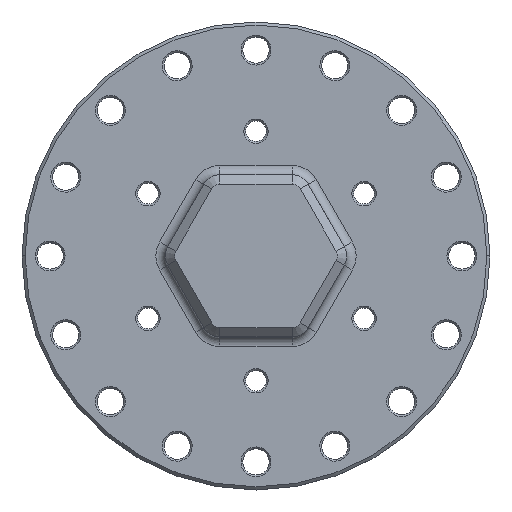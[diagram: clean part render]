
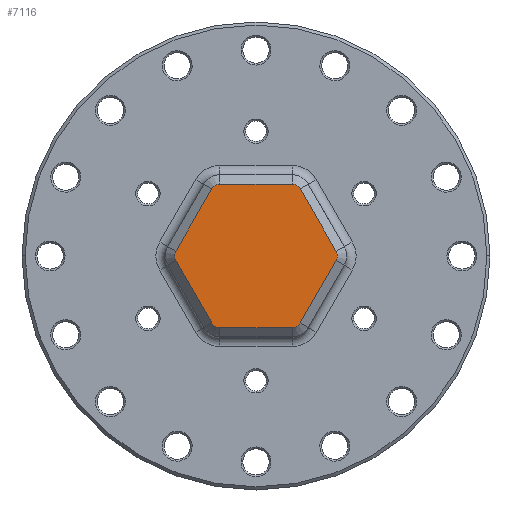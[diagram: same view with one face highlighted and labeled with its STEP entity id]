
A CAD part, top view. The second image highlights one B-rep face of the part: STEP entity #7116.
In plain terms, the highlighted planar face has unit normal (0, 0, 1).
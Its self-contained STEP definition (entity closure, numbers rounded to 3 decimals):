
#2974=CARTESIAN_POINT('',(-5.774,10.,19.));
#2975=DIRECTION('',(0.,0.,1.));
#2976=DIRECTION('',(0.,1.,0.));
#2977=AXIS2_PLACEMENT_3D('',#2974,#2975,#2976);
#2982=DIRECTION('',(-1.,0.,0.));
#2983=VECTOR('',#2982,11.547);
#2984=CARTESIAN_POINT('',(5.774,11.5,19.));
#2985=LINE('',#2984,#2983);
#2989=CARTESIAN_POINT('',(5.774,10.,19.));
#2990=DIRECTION('',(0.,0.,1.));
#2991=DIRECTION('',(0.866,0.5,0.));
#2992=AXIS2_PLACEMENT_3D('',#2989,#2990,#2991);
#2997=DIRECTION('',(-0.5,0.866,0.));
#2998=VECTOR('',#2997,11.547);
#2999=CARTESIAN_POINT('',(12.846,0.75,19.));
#3000=LINE('',#2999,#2998);
#3004=CARTESIAN_POINT('',(11.547,0.,19.));
#3005=DIRECTION('',(0.,0.,1.));
#3006=DIRECTION('',(0.866,-0.5,0.));
#3007=AXIS2_PLACEMENT_3D('',#3004,#3005,#3006);
#3012=DIRECTION('',(0.5,0.866,0.));
#3013=VECTOR('',#3012,11.547);
#3014=CARTESIAN_POINT('',(7.073,-10.75,19.));
#3015=LINE('',#3014,#3013);
#3019=CARTESIAN_POINT('',(5.774,-10.,19.));
#3020=DIRECTION('',(0.,0.,1.));
#3021=DIRECTION('',(0.,-1.,0.));
#3022=AXIS2_PLACEMENT_3D('',#3019,#3020,#3021);
#3027=DIRECTION('',(1.,0.,0.));
#3028=VECTOR('',#3027,11.547);
#3029=CARTESIAN_POINT('',(-5.774,-11.5,
19.));
#3030=LINE('',#3029,#3028);
#3034=CARTESIAN_POINT('',(-5.774,-10.,19.));
#3035=DIRECTION('',(0.,0.,1.));
#3036=DIRECTION('',(-0.866,-0.5,0.));
#3037=AXIS2_PLACEMENT_3D('',#3034,#3035,#3036);
#3042=DIRECTION('',(0.5,-0.866,0.));
#3043=VECTOR('',#3042,11.547);
#3044=CARTESIAN_POINT('',(-12.846,-0.75,
19.));
#3045=LINE('',#3044,#3043);
#3049=CARTESIAN_POINT('',(-11.547,0.,19.));
#3050=DIRECTION('',(0.,0.,1.));
#3051=DIRECTION('',(-0.866,0.5,0.));
#3052=AXIS2_PLACEMENT_3D('',#3049,#3050,#3051);
#3057=DIRECTION('',(-0.5,-0.866,0.));
#3058=VECTOR('',#3057,11.547);
#3059=CARTESIAN_POINT('',(-7.073,10.75,19.));
#3060=LINE('',#3059,#3058);
#4307=CARTESIAN_POINT('',(-5.774,11.5,19.));
#4308=CARTESIAN_POINT('',(-7.073,10.75,19.));
#4309=VERTEX_POINT('',#4307);
#4310=VERTEX_POINT('',#4308);
#4315=CARTESIAN_POINT('',(-12.846,0.75,
19.));
#4316=VERTEX_POINT('',#4315);
#4319=CARTESIAN_POINT('',(-12.846,-0.75,19.));
#4320=VERTEX_POINT('',#4319);
#4323=CARTESIAN_POINT('',(-7.073,-10.75,
19.));
#4324=VERTEX_POINT('',#4323);
#4327=CARTESIAN_POINT('',(-5.774,-11.5,19.));
#4328=VERTEX_POINT('',#4327);
#4331=CARTESIAN_POINT('',(5.774,-11.5,19.));
#4332=VERTEX_POINT('',#4331);
#4335=CARTESIAN_POINT('',(7.073,-10.75,19.));
#4336=VERTEX_POINT('',#4335);
#4339=CARTESIAN_POINT('',(12.846,-0.75,
19.));
#4340=VERTEX_POINT('',#4339);
#4343=CARTESIAN_POINT('',(12.846,0.75,19.));
#4344=VERTEX_POINT('',#4343);
#4347=CARTESIAN_POINT('',(7.073,10.75,19.));
#4348=VERTEX_POINT('',#4347);
#4351=CARTESIAN_POINT('',(5.774,11.5,19.));
#4352=VERTEX_POINT('',#4351);
#7086=CARTESIAN_POINT('',(0.,0.,19.));
#7087=DIRECTION('',(0.,0.,1.));
#7088=DIRECTION('',(1.,0.,0.));
#7089=AXIS2_PLACEMENT_3D('',#7086,#7087,#7088);
#7090=PLANE('',#7089);
#7092=ORIENTED_EDGE('',*,*,#7091,.F.);
#7094=ORIENTED_EDGE('',*,*,#7093,.F.);
#7096=ORIENTED_EDGE('',*,*,#7095,.F.);
#7098=ORIENTED_EDGE('',*,*,#7097,.F.);
#7100=ORIENTED_EDGE('',*,*,#7099,.F.);
#7102=ORIENTED_EDGE('',*,*,#7101,.F.);
#7104=ORIENTED_EDGE('',*,*,#7103,.F.);
#7106=ORIENTED_EDGE('',*,*,#7105,.F.);
#7108=ORIENTED_EDGE('',*,*,#7107,.F.);
#7110=ORIENTED_EDGE('',*,*,#7109,.F.);
#7111=ORIENTED_EDGE('',*,*,#7076,.F.);
#7113=ORIENTED_EDGE('',*,*,#7112,.F.);
#7114=EDGE_LOOP('',(#7092,#7094,#7096,#7098,#7100,#7102,#7104,#7106,#7108,#7110,
#7111,#7113));
#7115=FACE_OUTER_BOUND('',#7114,.F.);
#2978=CIRCLE('',#2977,1.5);
#2993=CIRCLE('',#2992,1.5);
#3008=CIRCLE('',#3007,1.5);
#3023=CIRCLE('',#3022,1.5);
#3038=CIRCLE('',#3037,1.5);
#3053=CIRCLE('',#3052,1.5);
#7076=EDGE_CURVE('',#4316,#4320,#3053,.T.);
#7091=EDGE_CURVE('',#4309,#4310,#2978,.T.);
#7093=EDGE_CURVE('',#4352,#4309,#2985,.T.);
#7095=EDGE_CURVE('',#4348,#4352,#2993,.T.);
#7097=EDGE_CURVE('',#4344,#4348,#3000,.T.);
#7099=EDGE_CURVE('',#4340,#4344,#3008,.T.);
#7101=EDGE_CURVE('',#4336,#4340,#3015,.T.);
#7103=EDGE_CURVE('',#4332,#4336,#3023,.T.);
#7105=EDGE_CURVE('',#4328,#4332,#3030,.T.);
#7107=EDGE_CURVE('',#4324,#4328,#3038,.T.);
#7109=EDGE_CURVE('',#4320,#4324,#3045,.T.);
#7112=EDGE_CURVE('',#4310,#4316,#3060,.T.);
#7116=ADVANCED_FACE('',(#7115),#7090,.T.);
